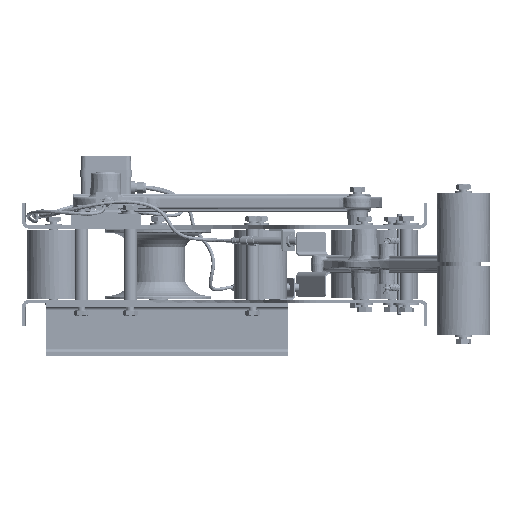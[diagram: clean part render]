
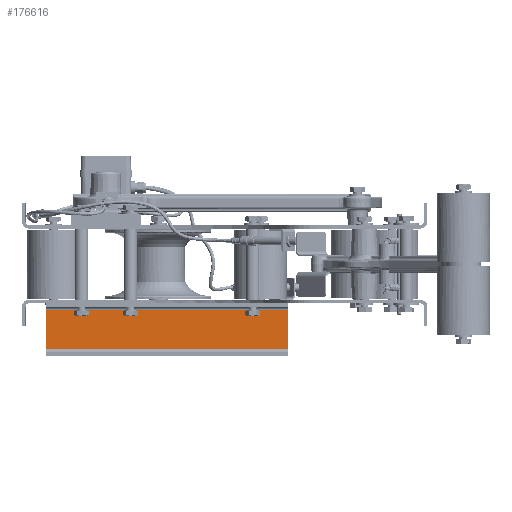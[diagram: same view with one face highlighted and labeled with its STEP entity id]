
A CAD part, left-side view. The second image highlights one B-rep face of the part: STEP entity #176616.
In plain terms, the highlighted planar face has unit normal (-1, 0, 0).
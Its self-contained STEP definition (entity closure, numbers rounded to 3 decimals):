
#19698=PLANE('',#190779);
#26055=FACE_OUTER_BOUND('',#38395,.T.);
#38395=EDGE_LOOP('',(#126794,#126795,#126796,#126797));
#57788=LINE('',#317553,#63266);
#57796=LINE('',#317577,#63274);
#57798=LINE('',#317580,#63276);
#57800=LINE('',#317584,#63278);
#63266=VECTOR('',#217473,345.);
#63274=VECTOR('',#217505,345.);
#63276=VECTOR('',#217509,55.);
#63278=VECTOR('',#217515,55.);
#72426=VERTEX_POINT('',#317542);
#72427=VERTEX_POINT('',#317546);
#72430=VERTEX_POINT('',#317565);
#72431=VERTEX_POINT('',#317569);
#91816=EDGE_CURVE('',#72426,#72427,#57788,.T.);
#91828=EDGE_CURVE('',#72430,#72431,#57796,.T.);
#91830=EDGE_CURVE('',#72430,#72427,#57798,.T.);
#91832=EDGE_CURVE('',#72426,#72431,#57800,.T.);
#126794=ORIENTED_EDGE('',*,*,#91816,.T.);
#126795=ORIENTED_EDGE('',*,*,#91830,.F.);
#126796=ORIENTED_EDGE('',*,*,#91828,.T.);
#126797=ORIENTED_EDGE('',*,*,#91832,.F.);
#176616=ADVANCED_FACE('',(#26055),#19698,.T.);
#190779=AXIS2_PLACEMENT_3D('',#317585,#217516,#217517);
#217473=DIRECTION('',(0.,-1.,0.));
#217505=DIRECTION('',(0.,1.,0.));
#217509=DIRECTION('',(0.,0.,-1.));
#217515=DIRECTION('',(0.,0.,1.));
#217516=DIRECTION('center_axis',(-1.,0.,
0.));
#217517=DIRECTION('ref_axis',(0.,0.,-1.));
#317542=CARTESIAN_POINT('',(-178.207,257.229,-186.553));
#317546=CARTESIAN_POINT('',(-178.258,-87.771,-186.553));
#317553=CARTESIAN_POINT('',(-178.245,-1.521,-186.553));
#317565=CARTESIAN_POINT('',(-178.258,-87.771,-131.553));
#317569=CARTESIAN_POINT('',(-178.207,257.229,-131.553));
#317577=CARTESIAN_POINT('',(-178.219,170.979,-131.553));
#317580=CARTESIAN_POINT('',(-178.258,-87.771,-121.553));
#317584=CARTESIAN_POINT('',(-178.207,257.229,-196.553));
#317585=CARTESIAN_POINT('Origin',(-178.232,84.729,-159.053));
